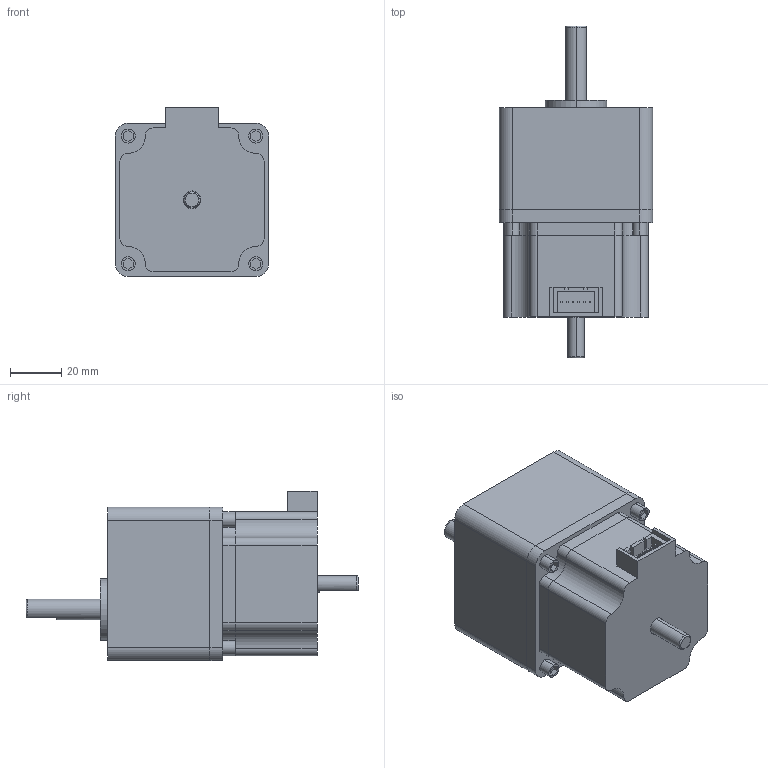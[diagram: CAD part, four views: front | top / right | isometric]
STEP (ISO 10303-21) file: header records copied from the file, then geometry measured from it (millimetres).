
FILE_DESCRIPTION (( 'STEP AP203' ), '1' );
FILE_NAME ('S60D偏心减速步进电机.STEP', '2019-11-23T06:52:45', ( 'China' ), ( 'Home' ), 'SwSTEP 2.0', 'SolidWorks 2016', '' );
FILE_SCHEMA (( 'CONFIG_CONTROL_DESIGN' ));
Length unit declared in the file: millimetre
Products named in the file (1): S60Dぇ陑熬厒祭輛萇儂
Bounding box: 60 x 130 x 66.2 mm (x, y, z)
Volume: 268883.5 mm3; surface area: 46664.5 mm2
Topology: 4 solids, 4 shells, 195 faces, 484 edges, 313 vertices
Faces by surface type: plane 116, cylinder 60, cone 16, torus 3
Entity records: 5819 total; most frequent: CARTESIAN_POINT 1019, DIRECTION 1000, ORIENTED_EDGE 952, EDGE_CURVE 476, LINE 336, VECTOR 336, AXIS2_PLACEMENT_3D 332, VERTEX_POINT 313
